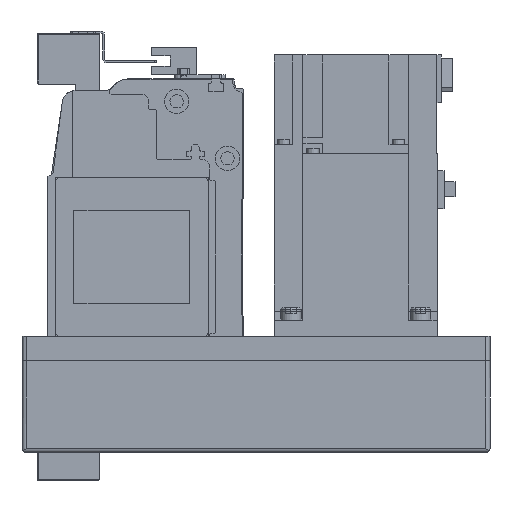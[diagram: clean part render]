
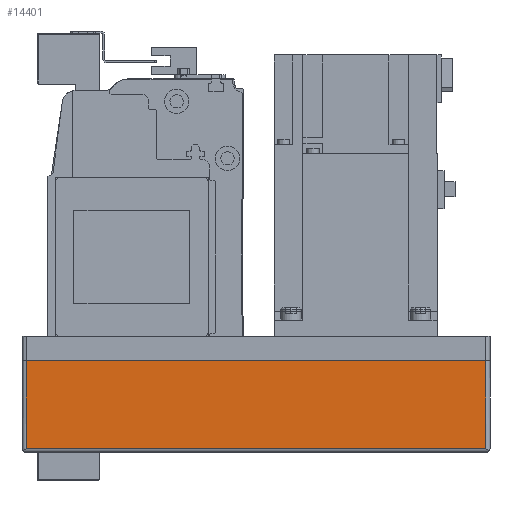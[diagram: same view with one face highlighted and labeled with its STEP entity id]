
A CAD part, left-side view. The second image highlights one B-rep face of the part: STEP entity #14401.
In plain terms, the highlighted planar face has unit normal (-1, 0, 0) as drawn and (0, 1, 0) by its records, which use the part's own axes.
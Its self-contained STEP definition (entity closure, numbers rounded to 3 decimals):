
#2592=ORIENTED_EDGE('',*,*,#5956,.F.);
#2593=ORIENTED_EDGE('',*,*,#5896,.T.);
#2594=ORIENTED_EDGE('',*,*,#5957,.F.);
#2595=ORIENTED_EDGE('',*,*,#5891,.F.);
#5891=EDGE_CURVE('',#7722,#7723,#9228,.T.);
#5896=EDGE_CURVE('',#7728,#7727,#9230,.T.);
#5956=EDGE_CURVE('',#7728,#7722,#9273,.T.);
#5957=EDGE_CURVE('',#7723,#7727,#9274,.T.);
#7722=VERTEX_POINT('',#22612);
#7723=VERTEX_POINT('',#22614);
#7727=VERTEX_POINT('',#22623);
#7728=VERTEX_POINT('',#22625);
#9228=LINE('',#22613,#10541);
#9230=LINE('',#22624,#10543);
#9273=LINE('',#22747,#10586);
#9274=LINE('',#22748,#10587);
#10541=VECTOR('',#18033,1000.);
#10543=VECTOR('',#18043,1000.);
#10586=VECTOR('',#18164,1000.);
#10587=VECTOR('',#18165,1000.);
#11694=EDGE_LOOP('',(#2592,#2593,#2594,#2595));
#12829=FACE_BOUND('',#11694,.T.);
#13796=PLANE('',#15488);
#14401=ADVANCED_FACE('',(#12829),#13796,.T.);
#15488=AXIS2_PLACEMENT_3D('',#22746,#18162,#18163);
#18033=DIRECTION('',(0.,0.,1.));
#18043=DIRECTION('',(0.,0.,1.));
#18162=DIRECTION('',(0.,1.,0.));
#18163=DIRECTION('',(0.,0.,1.));
#18164=DIRECTION('',(1.,0.,0.));
#18165=DIRECTION('',(-1.,0.,0.));
#22612=CARTESIAN_POINT('',(-2.,54.,-55.));
#22613=CARTESIAN_POINT('',(-2.,54.,-57.));
#22614=CARTESIAN_POINT('',(-2.,54.,-12.));
#22623=CARTESIAN_POINT('',(-228.,54.,-12.));
#22624=CARTESIAN_POINT('',(-228.,54.,-57.));
#22625=CARTESIAN_POINT('',(-228.,54.,-55.));
#22746=CARTESIAN_POINT('',(-2.,54.,-57.));
#22747=CARTESIAN_POINT('',(-230.,54.,-55.));
#22748=CARTESIAN_POINT('',(-2.,54.,-12.));
